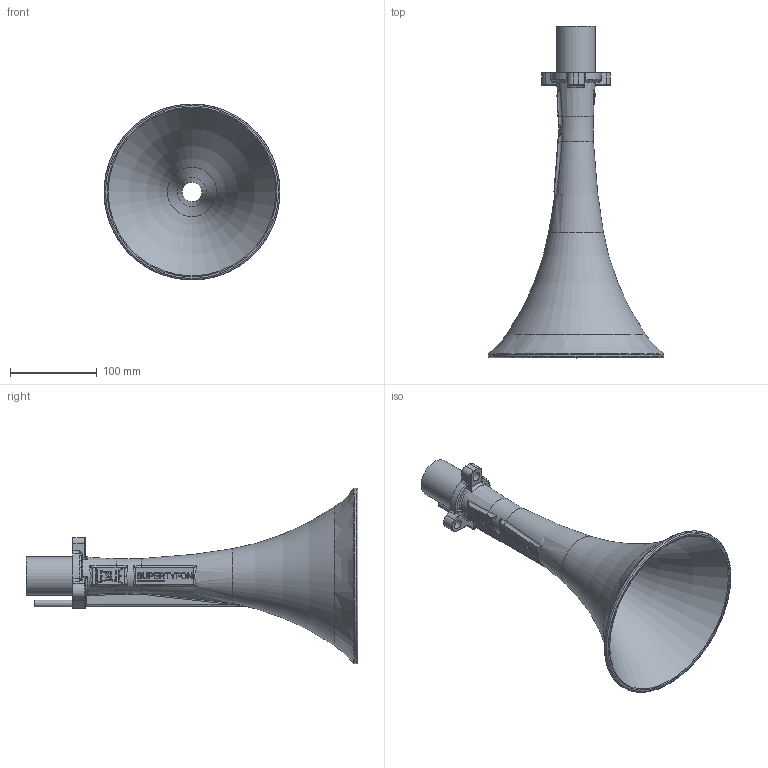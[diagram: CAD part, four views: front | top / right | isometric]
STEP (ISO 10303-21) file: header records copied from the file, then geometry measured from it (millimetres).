
FILE_DESCRIPTION(/* description */ (''),/* implementation_level */ '2;1');
FILE_NAME(/* name */ 'E:/hidden/Engineering Projects/Leslie Controls SuperTyfon/CAD/Components/27579 #37 Horn, Complete.step',/* time_stamp */ '2022-08-18T19:38:05+10:00',/* author */ (''),/* organization */ (''),/* preprocessor_version */ 'ST-DEVELOPER v19',/* originating_system */ 'Autodesk Translation Framework v11.7.0.108',/* authorisation */ '');
FILE_SCHEMA (('AUTOMOTIVE_DESIGN { 1 0 10303 214 3 1 1 }'));
Length unit declared in the file: inch
Products named in the file (3): #23113; #23114; #23115
Assembly tree (2 placements, depth 2):
  #23113
    #23114
    #23115
Bounding box: 203.2 x 383.38 x 203.2 mm (x, y, z)
Volume: 410223.2 mm3; surface area: 197351.8 mm2
Topology: 2 solids, 2 shells, 532 faces, 1440 edges, 916 vertices
Faces by surface type: plane 202, bspline 196, cone 58, cylinder 44, torus 28, sphere 4
Full cylindrical faces by diameter (mm): 2.381 x1, 6.35 x1, 7.938 x1, 7.987 x1, 11.112 x3, 44.45 x1, 203.2 x1
Entity records: 23127 total; most frequent: CARTESIAN_POINT 11191, ORIENTED_EDGE 2834, DIRECTION 1833, EDGE_CURVE 1417, VERTEX_POINT 916, AXIS2_PLACEMENT_3D 621, LINE 591, VECTOR 591
